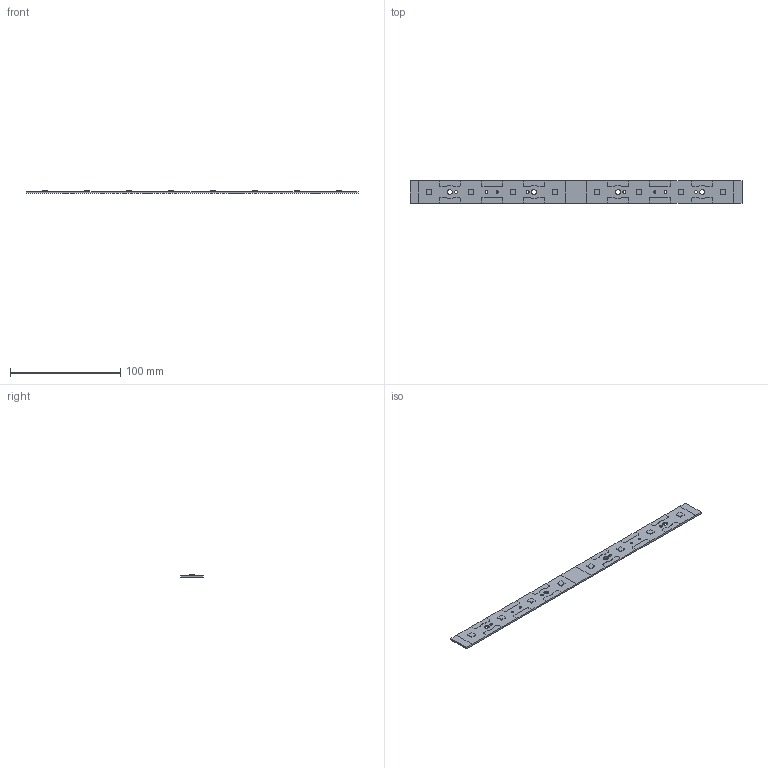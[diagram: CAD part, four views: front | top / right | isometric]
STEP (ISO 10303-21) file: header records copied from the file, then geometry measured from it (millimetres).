
FILE_DESCRIPTION(('CATIA V5 STEP Exchange'),'2;1');
FILE_NAME('C:\Users\jari.kinanen\Documents\cad\DAISY-M\8X1 M\PCB\PCB_DAISY-8X1-M_20200506_JaKi.stp','2020-05-07T10:12:15+00:00',('none'),('none'),'CATIA Version 5-6 Release 2018 SP4','CATIA V5 STEP AP203','none');
FILE_SCHEMA(('CONFIG_CONTROL_DESIGN'));
Length unit declared in the file: millimetre
Products named in the file (1): PCB_DAISY-8X1-M
Bounding box: 300.7 x 20 x 2.4 mm (x, y, z)
Volume: 9628.5 mm3; surface area: 13578.6 mm2
Topology: 9 solids, 9 shells, 270 faces, 756 edges, 505 vertices
Faces by surface type: plane 190, cylinder 64, extrusion 16
Entity records: 8710 total; most frequent: CARTESIAN_POINT 2109, ORIENTED_EDGE 1512, DIRECTION 1058, EDGE_CURVE 756, VECTOR 612, LINE 596, VERTEX_POINT 504, EDGE_LOOP 294
